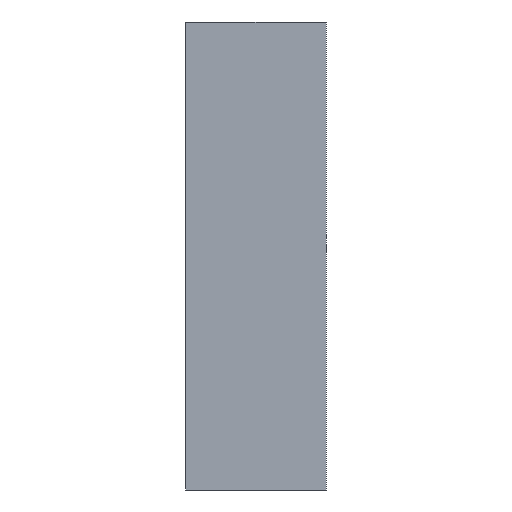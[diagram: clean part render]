
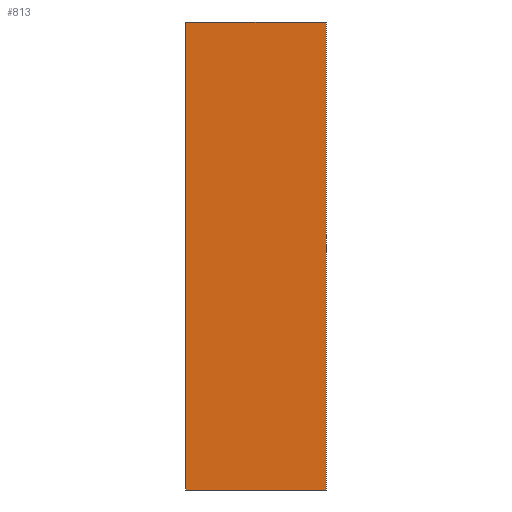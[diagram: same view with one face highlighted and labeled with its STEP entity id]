
A CAD part, left-side view. The second image highlights one B-rep face of the part: STEP entity #813.
In plain terms, the highlighted planar face has unit normal (-1, 0, 0).
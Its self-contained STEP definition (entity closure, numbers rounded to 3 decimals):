
#31=LINE('',#1137,#127);
#75=LINE('',#1248,#171);
#106=LINE('',#1316,#202);
#107=LINE('',#1318,#203);
#127=VECTOR('',#920,1000.);
#171=VECTOR('',#988,1000.);
#202=VECTOR('',#1059,1000.);
#203=VECTOR('',#1062,1000.);
#357=ORIENTED_EDGE('',*,*,#454,.F.);
#358=ORIENTED_EDGE('',*,*,#544,.T.);
#359=ORIENTED_EDGE('',*,*,#509,.F.);
#360=ORIENTED_EDGE('',*,*,#545,.F.);
#454=EDGE_CURVE('',#568,#569,#31,.T.);
#509=EDGE_CURVE('',#623,#624,#75,.T.);
#544=EDGE_CURVE('',#568,#624,#106,.T.);
#545=EDGE_CURVE('',#569,#623,#107,.T.);
#568=VERTEX_POINT('',#1136);
#569=VERTEX_POINT('',#1138);
#623=VERTEX_POINT('',#1247);
#624=VERTEX_POINT('',#1249);
#688=EDGE_LOOP('',(#357,#358,#359,#360));
#740=FACE_BOUND('',#688,.T.);
#774=PLANE('',#885);
#813=ADVANCED_FACE('',(#740),#774,.T.);
#885=AXIS2_PLACEMENT_3D('',#1317,#1060,#1061);
#920=DIRECTION('',(0.,1.,0.));
#988=DIRECTION('',(0.,-1.,0.));
#1059=DIRECTION('',(0.,0.,1.));
#1060=DIRECTION('',(-1.,0.,0.));
#1061=DIRECTION('',(0.,-1.,0.));
#1062=DIRECTION('',(0.,0.,1.));
#1136=CARTESIAN_POINT('',(-15.,-15.,-50.));
#1137=CARTESIAN_POINT('',(-15.,14.,-50.));
#1138=CARTESIAN_POINT('',(-15.,15.,-50.));
#1247=CARTESIAN_POINT('',(-15.,15.,50.));
#1248=CARTESIAN_POINT('',(-15.,14.,50.));
#1249=CARTESIAN_POINT('',(-15.,-15.,50.));
#1316=CARTESIAN_POINT('',(-15.,-15.,-150.));
#1317=CARTESIAN_POINT('',(-15.,14.,0.));
#1318=CARTESIAN_POINT('',(-15.,15.,-150.));
